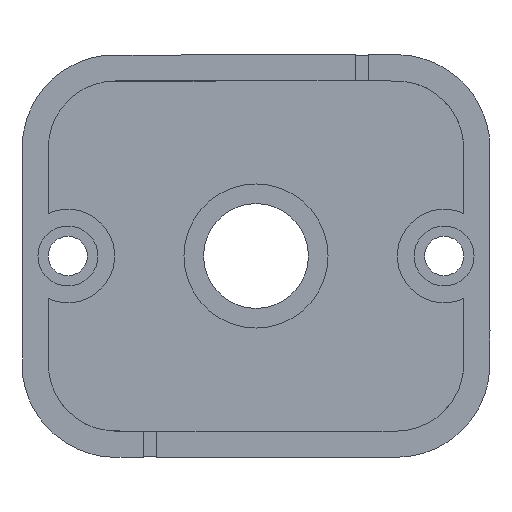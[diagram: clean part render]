
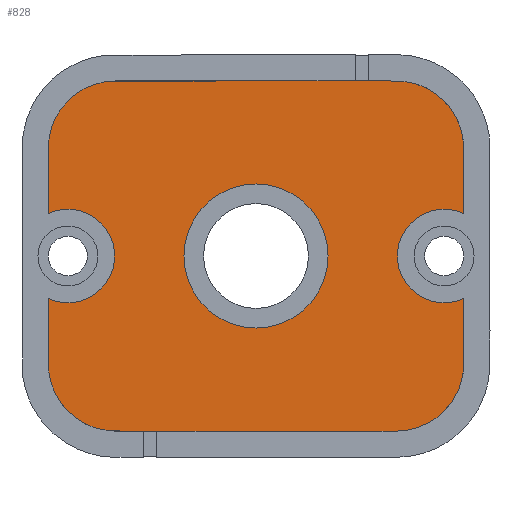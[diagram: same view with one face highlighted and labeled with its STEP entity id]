
A CAD part, front view. The second image highlights one B-rep face of the part: STEP entity #828.
In plain terms, the highlighted planar face has unit normal (0, -1, 0).
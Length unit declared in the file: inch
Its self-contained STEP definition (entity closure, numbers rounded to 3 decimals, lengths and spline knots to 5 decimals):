
#74=B_SPLINE_CURVE_WITH_KNOTS('',3,(#2238,#2239,#2240,#2241,#2242,#2243,
#2244,#2245,#2246,#2247,#2248,#2249,#2250,#2251,#2252,#2253,#2254,#2255,
#2256,#2257,#2258,#2259,#2260,#2261,#2262),.UNSPECIFIED.,.F.,.F.,(4,3,3,
3,3,3,3,3,4),(0.,0.02345,0.05792,0.09155,
0.27093,0.29438,0.32884,0.36248,
0.40411),.UNSPECIFIED.);
#91=B_SPLINE_CURVE_WITH_KNOTS('',3,(#3028,#3029,#3030,#3031),
 .UNSPECIFIED.,.F.,.F.,(4,4),(0.95837,1.),.UNSPECIFIED.);
#92=B_SPLINE_CURVE_WITH_KNOTS('',3,(#3092,#3093,#3094,#3095,#3096,#3097,
#3098,#3099,#3100,#3101,#3102,#3103,#3104,#3105,#3106,#3107,#3108,#3109,
#3110,#3111,#3112,#3113,#3114,#3115,#3116,#3117,#3118,#3119),
 .UNSPECIFIED.,.F.,.F.,(4,3,3,3,3,3,3,3,3,4),(0.45837,0.5,
0.52345,0.55792,0.59155,0.77093,
0.79438,0.82884,0.86248,0.90411),
 .UNSPECIFIED.);
#118=FACE_BOUND('',#238,.T.);
#136=PLANE('',#898);
#181=FACE_OUTER_BOUND('',#237,.T.);
#237=EDGE_LOOP('',(#746,#747,#748,#749,#750));
#238=EDGE_LOOP('',(#751));
#332=CIRCLE('',#893,0.385);
#333=CIRCLE('',#895,0.25);
#334=CIRCLE('',#897,0.25);
#397=VERTEX_POINT('',#2235);
#398=VERTEX_POINT('',#2237);
#412=VERTEX_POINT('',#3011);
#413=VERTEX_POINT('',#3015);
#414=VERTEX_POINT('',#3026);
#415=VERTEX_POINT('',#3033);
#504=EDGE_CURVE('',#397,#398,#74,.T.);
#527=EDGE_CURVE('',#412,#412,#332,.T.);
#528=EDGE_CURVE('',#398,#413,#333,.T.);
#531=EDGE_CURVE('',#414,#397,#91,.T.);
#533=EDGE_CURVE('',#415,#414,#334,.T.);
#534=EDGE_CURVE('',#413,#415,#92,.T.);
#746=ORIENTED_EDGE('',*,*,#534,.F.);
#747=ORIENTED_EDGE('',*,*,#528,.F.);
#748=ORIENTED_EDGE('',*,*,#504,.F.);
#749=ORIENTED_EDGE('',*,*,#531,.F.);
#750=ORIENTED_EDGE('',*,*,#533,.F.);
#751=ORIENTED_EDGE('',*,*,#527,.F.);
#828=ADVANCED_FACE('',(#181,#118),#136,.T.);
#893=AXIS2_PLACEMENT_3D('',#3013,#1027,#1028);
#895=AXIS2_PLACEMENT_3D('',#3016,#1031,#1032);
#897=AXIS2_PLACEMENT_3D('',#3035,#1038,#1039);
#898=AXIS2_PLACEMENT_3D('',#3120,#1040,#1041);
#1027=DIRECTION('center_axis',(0.,-1.,0.));
#1028=DIRECTION('ref_axis',(1.,0.,0.));
#1031=DIRECTION('center_axis',(0.,-1.,0.));
#1032=DIRECTION('ref_axis',(1.,0.,0.));
#1038=DIRECTION('center_axis',(0.,-1.,0.));
#1039=DIRECTION('ref_axis',(1.,0.,0.));
#1040=DIRECTION('center_axis',(0.,-1.,0.));
#1041=DIRECTION('ref_axis',(1.,0.,0.));
#2235=CARTESIAN_POINT('',(-1.11,0.14,0.575));
#2237=CARTESIAN_POINT('',(1.11,0.14,0.22688));
#2238=CARTESIAN_POINT('Ctrl Pts',(-1.11,0.14,0.575));
#2239=CARTESIAN_POINT('Ctrl Pts',(-1.11,0.14,0.62168));
#2240=CARTESIAN_POINT('Ctrl Pts',(-1.10045,0.14,0.67041));
#2241=CARTESIAN_POINT('Ctrl Pts',(-1.08177,0.14,0.71475));
#2242=CARTESIAN_POINT('Ctrl Pts',(-1.05459,0.14,0.77928));
#2243=CARTESIAN_POINT('Ctrl Pts',(-1.00485,0.14,0.83886));
#2244=CARTESIAN_POINT('Ctrl Pts',(-0.94567,0.14,0.87718));
#2245=CARTESIAN_POINT('Ctrl Pts',(-0.88781,0.14,0.91465));
#2246=CARTESIAN_POINT('Ctrl Pts',(-0.81637,0.14,0.935));
#2247=CARTESIAN_POINT('Ctrl Pts',(-0.75,0.14,0.935));
#2248=CARTESIAN_POINT('Ctrl Pts',(-0.25,0.14,0.935));
#2249=CARTESIAN_POINT('Ctrl Pts',(0.25,0.14,0.935));
#2250=CARTESIAN_POINT('Ctrl Pts',(0.75,0.14,0.935));
#2251=CARTESIAN_POINT('Ctrl Pts',(0.79668,0.14,0.935));
#2252=CARTESIAN_POINT('Ctrl Pts',(0.84541,0.14,0.92545));
#2253=CARTESIAN_POINT('Ctrl Pts',(0.88975,0.14,0.90677));
#2254=CARTESIAN_POINT('Ctrl Pts',(0.95428,0.14,0.87959));
#2255=CARTESIAN_POINT('Ctrl Pts',(1.01386,0.14,0.82985));
#2256=CARTESIAN_POINT('Ctrl Pts',(1.05218,0.14,0.77067));
#2257=CARTESIAN_POINT('Ctrl Pts',(1.08965,0.14,0.71281));
#2258=CARTESIAN_POINT('Ctrl Pts',(1.11,0.14,0.64137));
#2259=CARTESIAN_POINT('Ctrl Pts',(1.11,0.14,0.575));
#2260=CARTESIAN_POINT('Ctrl Pts',(1.11,0.14,0.45896));
#2261=CARTESIAN_POINT('Ctrl Pts',(1.11,0.14,0.34292));
#2262=CARTESIAN_POINT('Ctrl Pts',(1.11,0.14,0.22688));
#3011=CARTESIAN_POINT('',(-0.385,0.14,0.));
#3013=CARTESIAN_POINT('Origin',(0.,0.14,0.));
#3015=CARTESIAN_POINT('',(1.11,0.14,-0.22688));
#3016=CARTESIAN_POINT('Origin',(1.005,0.14,0.));
#3026=CARTESIAN_POINT('',(-1.11,0.14,0.22688));
#3028=CARTESIAN_POINT('Ctrl Pts',(-1.11,0.14,0.22688));
#3029=CARTESIAN_POINT('Ctrl Pts',(-1.11,0.14,0.34292));
#3030=CARTESIAN_POINT('Ctrl Pts',(-1.11,0.14,0.45896));
#3031=CARTESIAN_POINT('Ctrl Pts',(-1.11,0.14,0.575));
#3033=CARTESIAN_POINT('',(-1.11,0.14,-0.22688));
#3035=CARTESIAN_POINT('Origin',(-1.005,0.14,0.));
#3092=CARTESIAN_POINT('Ctrl Pts',(1.11,0.14,-0.22688));
#3093=CARTESIAN_POINT('Ctrl Pts',(1.11,0.14,-0.34292));
#3094=CARTESIAN_POINT('Ctrl Pts',(1.11,0.14,-0.45896));
#3095=CARTESIAN_POINT('Ctrl Pts',(1.11,0.14,-0.575));
#3096=CARTESIAN_POINT('Ctrl Pts',(1.11,0.14,-0.62168));
#3097=CARTESIAN_POINT('Ctrl Pts',(1.10045,0.14,-0.67041));
#3098=CARTESIAN_POINT('Ctrl Pts',(1.08177,0.14,-0.71475));
#3099=CARTESIAN_POINT('Ctrl Pts',(1.05459,0.14,-0.77928));
#3100=CARTESIAN_POINT('Ctrl Pts',(1.00485,0.14,-0.83886));
#3101=CARTESIAN_POINT('Ctrl Pts',(0.94567,0.14,-0.87718));
#3102=CARTESIAN_POINT('Ctrl Pts',(0.88781,0.14,-0.91465));
#3103=CARTESIAN_POINT('Ctrl Pts',(0.81637,0.14,-0.935));
#3104=CARTESIAN_POINT('Ctrl Pts',(0.75,0.14,-0.935));
#3105=CARTESIAN_POINT('Ctrl Pts',(0.25,0.14,-0.935));
#3106=CARTESIAN_POINT('Ctrl Pts',(-0.25,0.14,-0.935));
#3107=CARTESIAN_POINT('Ctrl Pts',(-0.75,0.14,-0.935));
#3108=CARTESIAN_POINT('Ctrl Pts',(-0.79668,0.14,-0.935));
#3109=CARTESIAN_POINT('Ctrl Pts',(-0.84541,0.14,-0.92545));
#3110=CARTESIAN_POINT('Ctrl Pts',(-0.88975,0.14,-0.90677));
#3111=CARTESIAN_POINT('Ctrl Pts',(-0.95428,0.14,-0.87959));
#3112=CARTESIAN_POINT('Ctrl Pts',(-1.01386,0.14,-0.82985));
#3113=CARTESIAN_POINT('Ctrl Pts',(-1.05218,0.14,-0.77067));
#3114=CARTESIAN_POINT('Ctrl Pts',(-1.08965,0.14,-0.71281));
#3115=CARTESIAN_POINT('Ctrl Pts',(-1.11,0.14,-0.64137));
#3116=CARTESIAN_POINT('Ctrl Pts',(-1.11,0.14,-0.575));
#3117=CARTESIAN_POINT('Ctrl Pts',(-1.11,0.14,-0.45896));
#3118=CARTESIAN_POINT('Ctrl Pts',(-1.11,0.14,-0.34292));
#3119=CARTESIAN_POINT('Ctrl Pts',(-1.11,0.14,-0.22688));
#3120=CARTESIAN_POINT('Origin',(0.,0.14,0.));
